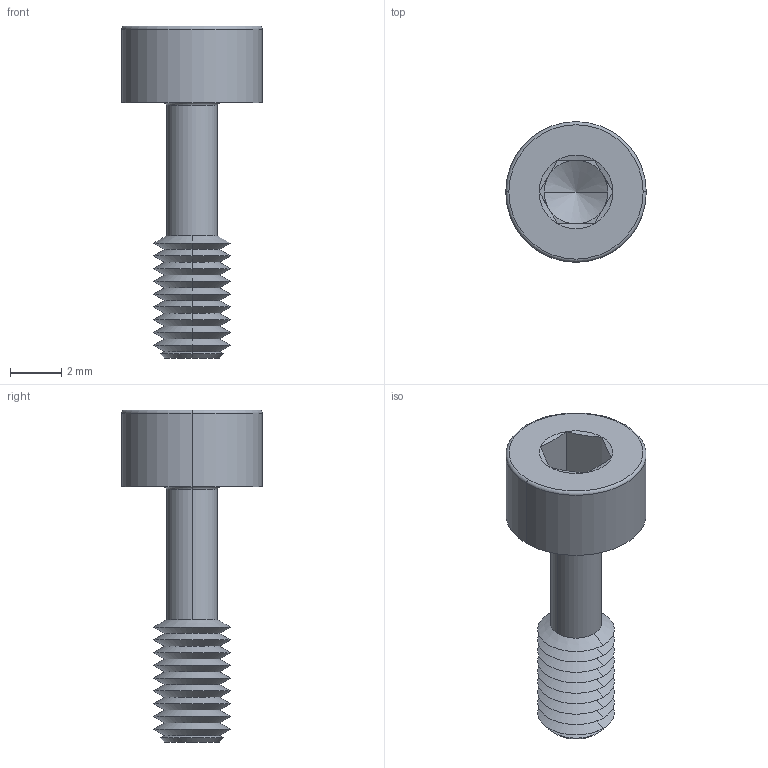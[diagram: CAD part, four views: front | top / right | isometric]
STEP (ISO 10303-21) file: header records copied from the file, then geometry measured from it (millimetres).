
FILE_DESCRIPTION (( 'STEP AP203' ), '1' );
FILE_NAME ('P0154.030-010-BL.step', '2024-06-17T11:22:18', ( '' ), ( '' ), 'SwSTEP 2.0', 'SolidWorks 2019', '' );
FILE_SCHEMA (( 'CONFIG_CONTROL_DESIGN' ));
Length unit declared in the file: millimetre
Products named in the file (1): P0154.030-010-BL
Bounding box: 5.5 x 5.5 x 13 mm (x, y, z)
Volume: 97.6 mm3; surface area: 229.5 mm2
Topology: 1 solids, 1 shells, 71 faces, 144 edges, 75 vertices
Faces by surface type: cone 48, plane 15, torus 4, cylinder 4
Entity records: 1887 total; most frequent: DIRECTION 352, CARTESIAN_POINT 315, ORIENTED_EDGE 284, AXIS2_PLACEMENT_3D 144, EDGE_CURVE 142, VERTEX_POINT 75, EDGE_LOOP 73, CIRCLE 72
